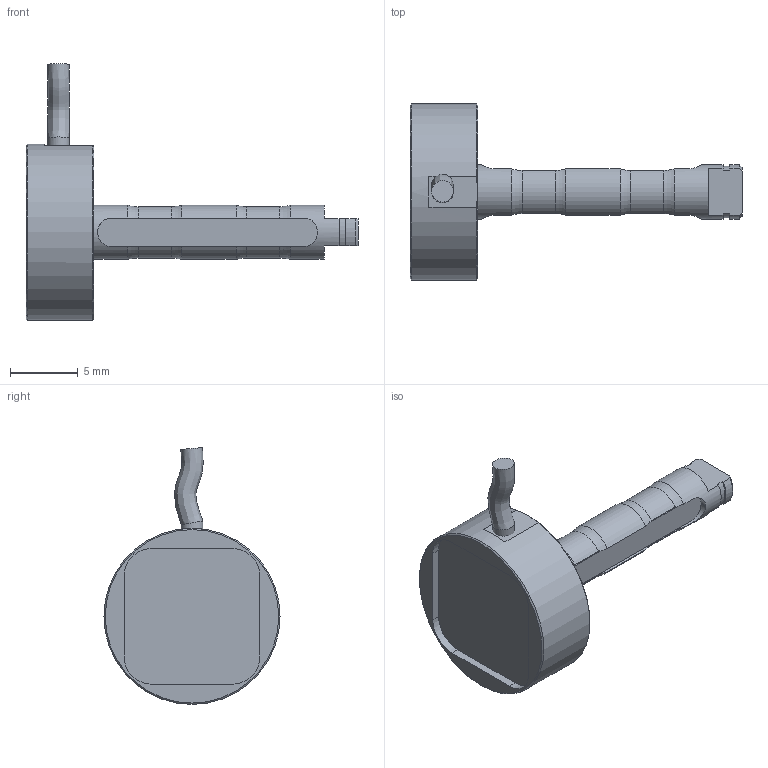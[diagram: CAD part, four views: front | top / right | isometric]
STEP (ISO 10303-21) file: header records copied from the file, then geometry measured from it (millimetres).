
FILE_DESCRIPTION(/* description */ ('Alibre Inc.'),/* implementation_level */ '2;1');
FILE_NAME(/* name */ 'export0',/* time_stamp */ '2016-12-09T16:07:22+01:00',/* author */ (''),/* organization */ (''),/* preprocessor_version */ 'ST-DEVELOPER v14',/* originating_system */ 'Alibre',/* authorisation */ '');
FILE_SCHEMA (('CONFIG_CONTROL_DESIGN'));
Length unit declared in the file: centimetre
Products named in the file (3): ID_1
Bounding box: 24.5 x 13 x 18.96 mm (x, y, z)
Volume: 818.8 mm3; surface area: 793.8 mm2
Topology: 2 solids, 2 shells, 81 faces, 227 edges, 153 vertices
Faces by surface type: plane 36, cylinder 30, torus 8, cone 6, bspline 1
Full cylindrical faces by diameter (mm): 1.5 x3, 1.6 x1, 4 x2, 13 x1
Entity records: 3330 total; most frequent: CARTESIAN_POINT 1198, ORIENTED_EDGE 428, DIRECTION 312, EDGE_CURVE 214, VERTEX_POINT 148, AXIS2_PLACEMENT_3D 128, VECTOR 93, LINE 93
